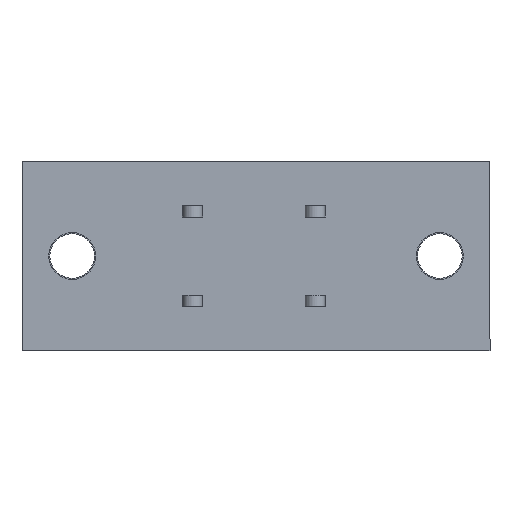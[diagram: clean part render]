
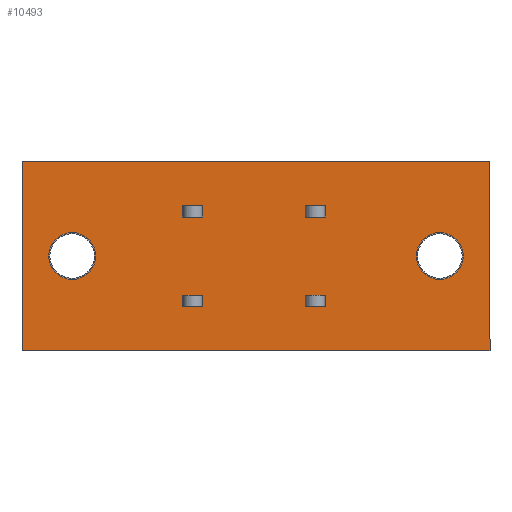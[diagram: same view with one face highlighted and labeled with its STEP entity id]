
A CAD part, front view. The second image highlights one B-rep face of the part: STEP entity #10493.
In plain terms, the highlighted planar face has unit normal (0, -1, 0).
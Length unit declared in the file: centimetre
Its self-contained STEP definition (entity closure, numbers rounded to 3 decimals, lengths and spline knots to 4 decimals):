
#556=VECTOR('',#11608,1.);
#560=VECTOR('',#11613,1.);
#566=VECTOR('',#11623,1.);
#569=VECTOR('',#11629,1.);
#572=VECTOR('',#11633,1.);
#584=VECTOR('',#11669,1.);
#585=VECTOR('',#11671,1.);
#596=VECTOR('',#11687,1.);
#608=VECTOR('',#11708,1.);
#609=VECTOR('',#11709,1.);
#610=VECTOR('',#11710,1.);
#611=VECTOR('',#11711,1.);
#612=VECTOR('',#11714,1.);
#613=VECTOR('',#11715,1.);
#614=VECTOR('',#11716,1.);
#615=VECTOR('',#11717,1.);
#616=VECTOR('',#11718,1.);
#617=VECTOR('',#11719,1.);
#618=VECTOR('',#11720,1.);
#619=VECTOR('',#11721,1.);
#1783=LINE('',#13785,#556);
#1787=LINE('',#13794,#560);
#1793=LINE('',#13809,#566);
#1796=LINE('',#13818,#569);
#1799=LINE('',#13824,#572);
#1811=LINE('',#13859,#584);
#1812=LINE('',#13861,#585);
#1823=LINE('',#13882,#596);
#1835=LINE('',#13911,#608);
#1836=LINE('',#13914,#609);
#1837=LINE('',#13916,#610);
#1838=LINE('',#13918,#611);
#1839=LINE('',#13921,#612);
#1840=LINE('',#13924,#613);
#1841=LINE('',#13926,#614);
#1842=LINE('',#13928,#615);
#1843=LINE('',#13929,#616);
#1844=LINE('',#13932,#617);
#1845=LINE('',#13934,#618);
#1846=LINE('',#13936,#619);
#3030=VERTEX_POINT('',#13786);
#3031=VERTEX_POINT('',#13787);
#3034=VERTEX_POINT('',#13795);
#3040=VERTEX_POINT('',#13810);
#3041=VERTEX_POINT('',#13811);
#3044=VERTEX_POINT('',#13819);
#3046=VERTEX_POINT('',#13825);
#3055=VERTEX_POINT('',#13862);
#3070=VERTEX_POINT('',#13912);
#3071=VERTEX_POINT('',#13913);
#3072=VERTEX_POINT('',#13915);
#3073=VERTEX_POINT('',#13917);
#3074=VERTEX_POINT('',#13920);
#3075=VERTEX_POINT('',#13922);
#3076=VERTEX_POINT('',#13923);
#3077=VERTEX_POINT('',#13925);
#3078=VERTEX_POINT('',#13927);
#3079=VERTEX_POINT('',#13930);
#3080=VERTEX_POINT('',#13931);
#3081=VERTEX_POINT('',#13933);
#3082=VERTEX_POINT('',#13935);
#3083=VERTEX_POINT('',#13938);
#4095=CIRCLE('',#17983,0.21);
#4096=CIRCLE('',#17984,0.21);
#4290=EDGE_CURVE('',#3030,#3031,#1783,.T.);
#4294=EDGE_CURVE('',#3034,#3030,#1787,.T.);
#4301=EDGE_CURVE('',#3040,#3041,#1793,.T.);
#4305=EDGE_CURVE('',#3044,#3040,#1796,.T.);
#4308=EDGE_CURVE('',#3046,#3044,#1799,.T.);
#4326=EDGE_CURVE('',#3041,#3046,#1811,.T.);
#4327=EDGE_CURVE('',#3055,#3034,#1812,.T.);
#4338=EDGE_CURVE('',#3031,#3055,#1823,.T.);
#4352=EDGE_CURVE('',#3070,#3071,#1835,.T.);
#4353=EDGE_CURVE('',#3071,#3072,#1836,.T.);
#4354=EDGE_CURVE('',#3072,#3073,#1837,.T.);
#4355=EDGE_CURVE('',#3073,#3070,#1838,.T.);
#4356=EDGE_CURVE('',#3074,#3074,#4095,.T.);
#4357=EDGE_CURVE('',#3075,#3076,#1839,.T.);
#4358=EDGE_CURVE('',#3077,#3075,#1840,.T.);
#4359=EDGE_CURVE('',#3078,#3077,#1841,.T.);
#4360=EDGE_CURVE('',#3076,#3078,#1842,.T.);
#4361=EDGE_CURVE('',#3079,#3080,#1843,.T.);
#4362=EDGE_CURVE('',#3081,#3079,#1844,.T.);
#4363=EDGE_CURVE('',#3082,#3081,#1845,.T.);
#4364=EDGE_CURVE('',#3080,#3082,#1846,.T.);
#4365=EDGE_CURVE('',#3083,#3083,#4096,.T.);
#6104=ORIENTED_EDGE('',*,*,#4352,.T.);
#6105=ORIENTED_EDGE('',*,*,#4353,.T.);
#6106=ORIENTED_EDGE('',*,*,#4354,.T.);
#6107=ORIENTED_EDGE('',*,*,#4355,.T.);
#6108=ORIENTED_EDGE('',*,*,#4356,.T.);
#6109=ORIENTED_EDGE('',*,*,#4357,.F.);
#6110=ORIENTED_EDGE('',*,*,#4358,.F.);
#6111=ORIENTED_EDGE('',*,*,#4359,.F.);
#6112=ORIENTED_EDGE('',*,*,#4360,.F.);
#6113=ORIENTED_EDGE('',*,*,#4361,.F.);
#6114=ORIENTED_EDGE('',*,*,#4362,.F.);
#6115=ORIENTED_EDGE('',*,*,#4363,.F.);
#6116=ORIENTED_EDGE('',*,*,#4364,.F.);
#6117=ORIENTED_EDGE('',*,*,#4365,.T.);
#6118=ORIENTED_EDGE('',*,*,#4308,.T.);
#6119=ORIENTED_EDGE('',*,*,#4305,.T.);
#6120=ORIENTED_EDGE('',*,*,#4301,.T.);
#6121=ORIENTED_EDGE('',*,*,#4326,.T.);
#6122=ORIENTED_EDGE('',*,*,#4294,.T.);
#6123=ORIENTED_EDGE('',*,*,#4290,.T.);
#6124=ORIENTED_EDGE('',*,*,#4338,.T.);
#6125=ORIENTED_EDGE('',*,*,#4327,.T.);
#9149=EDGE_LOOP('',(#6104,#6105,#6106,#6107));
#9150=EDGE_LOOP('',(#6108));
#9151=EDGE_LOOP('',(#6109,#6110,#6111,#6112));
#9152=EDGE_LOOP('',(#6113,#6114,#6115,#6116));
#9153=EDGE_LOOP('',(#6117));
#9154=EDGE_LOOP('',(#6118,#6119,#6120,#6121));
#9155=EDGE_LOOP('',(#6122,#6123,#6124,#6125));
#9825=FACE_BOUND('',#9149,.T.);
#9826=FACE_BOUND('',#9150,.T.);
#9827=FACE_BOUND('',#9151,.T.);
#9828=FACE_BOUND('',#9152,.T.);
#9829=FACE_BOUND('',#9153,.T.);
#9830=FACE_BOUND('',#9154,.T.);
#9831=FACE_BOUND('',#9155,.T.);
#10493=ADVANCED_FACE('',(#9825,#9826,#9827,#9828,#9829,#9830,#9831),#11081,
 .T.);
#11081=PLANE('',#17982);
#11608=DIRECTION('',(1.,0.,0.));
#11613=DIRECTION('',(0.,0.,1.));
#11623=DIRECTION('',(0.,0.,1.));
#11629=DIRECTION('',(-1.,0.,0.));
#11633=DIRECTION('',(0.,0.,-1.));
#11669=DIRECTION('',(1.,0.,0.));
#11671=DIRECTION('',(-1.,0.,0.));
#11687=DIRECTION('',(0.,0.,-1.));
#11707=DIRECTION('',(0.,-1.,0.));
#11708=DIRECTION('',(0.,0.,1.));
#11709=DIRECTION('',(-1.,0.,0.));
#11710=DIRECTION('',(0.,0.,-1.));
#11711=DIRECTION('',(1.,0.,0.));
#11712=DIRECTION('',(0.,1.,0.));
#11713=DIRECTION('',(0.,0.,0.21));
#11714=DIRECTION('',(0.,0.,-1.));
#11715=DIRECTION('',(-1.,0.,0.));
#11716=DIRECTION('',(0.,0.,1.));
#11717=DIRECTION('',(1.,0.,0.));
#11718=DIRECTION('',(0.,0.,1.));
#11719=DIRECTION('',(1.,0.,0.));
#11720=DIRECTION('',(0.,0.,-1.));
#11721=DIRECTION('',(-1.,0.,0.));
#11722=DIRECTION('',(0.,1.,0.));
#11723=DIRECTION('',(0.,0.,-0.21));
#13785=CARTESIAN_POINT('',(0.2,-0.95,1.19));
#13786=CARTESIAN_POINT('',(0.35,-0.95,1.19));
#13787=CARTESIAN_POINT('',(0.45,-0.95,1.19));
#13794=CARTESIAN_POINT('',(0.35,-0.95,1.335));
#13795=CARTESIAN_POINT('',(0.35,-0.95,1.01));
#13809=CARTESIAN_POINT('',(-0.45,-0.95,1.335));
#13810=CARTESIAN_POINT('',(-0.45,-0.95,1.01));
#13811=CARTESIAN_POINT('',(-0.45,-0.95,1.19));
#13818=CARTESIAN_POINT('',(-0.2,-0.95,1.01));
#13819=CARTESIAN_POINT('',(-0.35,-0.95,1.01));
#13824=CARTESIAN_POINT('',(-0.35,-0.95,1.335));
#13825=CARTESIAN_POINT('',(-0.35,-0.95,1.19));
#13859=CARTESIAN_POINT('',(-0.2,-0.95,1.19));
#13861=CARTESIAN_POINT('',(0.2,-0.95,1.01));
#13862=CARTESIAN_POINT('',(0.45,-0.95,1.01));
#13882=CARTESIAN_POINT('',(0.45,-0.95,1.335));
#13910=CARTESIAN_POINT('',(0.,-0.95,1.57));
#13911=CARTESIAN_POINT('',(0.85,-0.95,1.57));
#13912=CARTESIAN_POINT('',(0.85,-0.95,-1.53));
#13913=CARTESIAN_POINT('',(0.85,-0.95,2.67));
#13914=CARTESIAN_POINT('',(-0.85,-0.95,2.67));
#13915=CARTESIAN_POINT('',(-0.85,-0.95,2.67));
#13916=CARTESIAN_POINT('',(-0.85,-0.95,-0.63));
#13917=CARTESIAN_POINT('',(-0.85,-0.95,-1.53));
#13918=CARTESIAN_POINT('',(0.85,-0.95,-1.53));
#13919=CARTESIAN_POINT('',(0.,-0.95,2.22));
#13920=CARTESIAN_POINT('',(0.,-0.95,2.01));
#13921=CARTESIAN_POINT('',(0.35,-0.95,-0.215));
#13922=CARTESIAN_POINT('',(0.35,-0.95,0.09));
#13923=CARTESIAN_POINT('',(0.35,-0.95,-0.09));
#13924=CARTESIAN_POINT('',(0.2,-0.95,0.09));
#13925=CARTESIAN_POINT('',(0.45,-0.95,0.09));
#13926=CARTESIAN_POINT('',(0.45,-0.95,-0.215));
#13927=CARTESIAN_POINT('',(0.45,-0.95,-0.09));
#13928=CARTESIAN_POINT('',(0.2,-0.95,-0.09));
#13929=CARTESIAN_POINT('',(-0.35,-0.95,-0.215));
#13930=CARTESIAN_POINT('',(-0.35,-0.95,-0.09));
#13931=CARTESIAN_POINT('',(-0.35,-0.95,0.09));
#13932=CARTESIAN_POINT('',(-0.2,-0.95,-0.09));
#13933=CARTESIAN_POINT('',(-0.45,-0.95,-0.09));
#13934=CARTESIAN_POINT('',(-0.45,-0.95,-0.215));
#13935=CARTESIAN_POINT('',(-0.45,-0.95,0.09));
#13936=CARTESIAN_POINT('',(-0.2,-0.95,0.09));
#13937=CARTESIAN_POINT('',(0.,-0.95,-1.08));
#13938=CARTESIAN_POINT('',(0.,-0.95,-0.87));
#17982=AXIS2_PLACEMENT_3D('',#13910,#11707,$);
#17983=AXIS2_PLACEMENT_3D('',#13919,#11712,#11713);
#17984=AXIS2_PLACEMENT_3D('',#13937,#11722,#11723);
